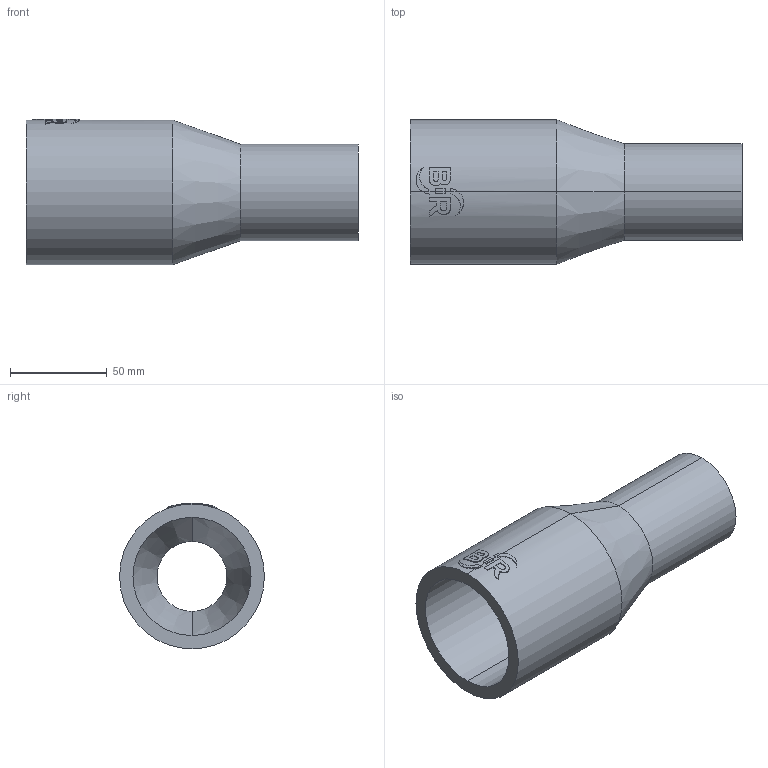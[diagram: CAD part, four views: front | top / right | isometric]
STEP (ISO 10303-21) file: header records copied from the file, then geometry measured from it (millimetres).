
FILE_DESCRIPTION (( 'STEP AP214' ), '1' );
FILE_NAME ('2323121015.STEP', '2018-07-20T10:05:13', ( '' ), ( '' ), 'SwSTEP 2.0', 'SolidWorks 2017', '' );
FILE_SCHEMA (( 'AUTOMOTIVE_DESIGN' ));
Length unit declared in the file: millimetre
Products named in the file (1): 2323121015
Bounding box: 172 x 75 x 75.46 mm (x, y, z)
Volume: 213754.8 mm3; surface area: 64440.5 mm2
Topology: 1 solids, 1 shells, 63 faces, 160 edges, 104 vertices
Faces by surface type: cylinder 31, plane 28, cone 4
Entity records: 3094 total; most frequent: CARTESIAN_POINT 885, ORIENTED_EDGE 320, DIRECTION 296, EDGE_CURVE 160, AXIS2_PLACEMENT_3D 112, VERTEX_POINT 104, LINE 72, VECTOR 72
